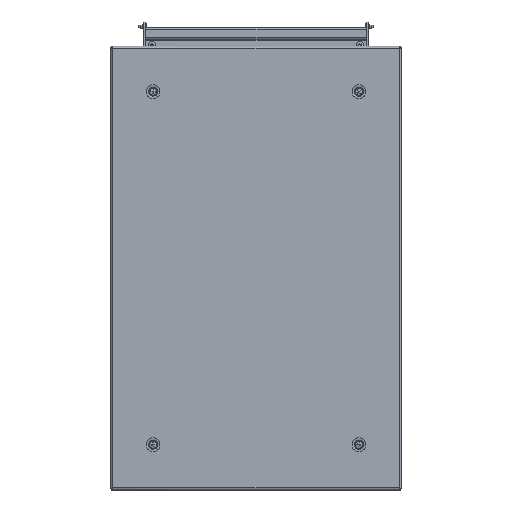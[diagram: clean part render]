
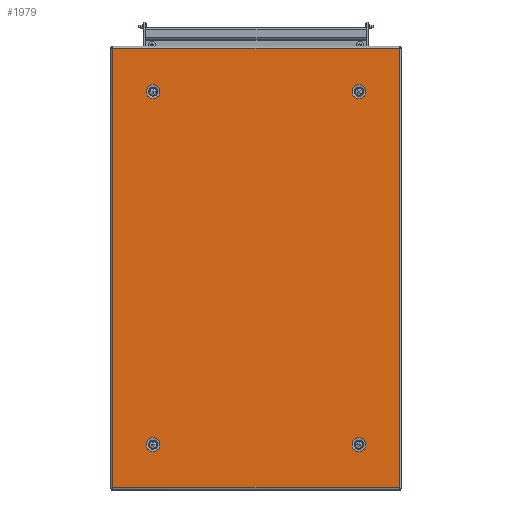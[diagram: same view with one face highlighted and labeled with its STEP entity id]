
A CAD part, left-side view. The second image highlights one B-rep face of the part: STEP entity #1979.
In plain terms, the highlighted planar face has unit normal (-1, 0, 0).
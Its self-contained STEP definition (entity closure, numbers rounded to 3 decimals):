
#1979=ADVANCED_FACE('',(#2788,#2790,#2792,#2794,#2796),#2798,.F.);
#2788=FACE_BOUND('',#2789,.T.);
#2789=EDGE_LOOP('',(#9657,#9658,#9659,#9660));
#2790=FACE_BOUND('',#2791,.T.);
#2791=EDGE_LOOP('',(#9661));
#2792=FACE_BOUND('',#2793,.T.);
#2793=EDGE_LOOP('',(#9662));
#2794=FACE_BOUND('',#2795,.T.);
#2795=EDGE_LOOP('',(#9663));
#2796=FACE_BOUND('',#2797,.T.);
#2797=EDGE_LOOP('',(#9664));
#2798=PLANE('',#2799);
#2799=AXIS2_PLACEMENT_3D('',#2800,#2801,#2802);
#2800=CARTESIAN_POINT('',(0.,0.,0.));
#2801=DIRECTION('',(1.,0.,0.));
#2802=DIRECTION('',(0.,1.,0.));
#9657=ORIENTED_EDGE('',*,*,#11681,.T.);
#9658=ORIENTED_EDGE('',*,*,#11682,.T.);
#9659=ORIENTED_EDGE('',*,*,#11683,.T.);
#9660=ORIENTED_EDGE('',*,*,#11684,.T.);
#9661=ORIENTED_EDGE('',*,*,#11685,.T.);
#9662=ORIENTED_EDGE('',*,*,#11686,.T.);
#9663=ORIENTED_EDGE('',*,*,#11687,.T.);
#9664=ORIENTED_EDGE('',*,*,#11688,.T.);
#11681=EDGE_CURVE('',#12755,#12756,#12757,.T.);
#11682=EDGE_CURVE('',#12756,#12758,#12759,.T.);
#11683=EDGE_CURVE('',#12758,#12760,#12761,.T.);
#11684=EDGE_CURVE('',#12760,#12755,#12762,.T.);
#11685=EDGE_CURVE('',#12763,#12763,#12764,.T.);
#11686=EDGE_CURVE('',#12765,#12765,#12766,.T.);
#11687=EDGE_CURVE('',#12767,#12767,#12768,.T.);
#11688=EDGE_CURVE('',#12769,#12769,#12770,.T.);
#12755=VERTEX_POINT('',#14618);
#12756=VERTEX_POINT('',#14619);
#12757=LINE('',#14620,#14621);
#12758=VERTEX_POINT('',#14623);
#12759=LINE('',#14624,#14625);
#12760=VERTEX_POINT('',#14627);
#12761=LINE('',#14628,#14629);
#12762=LINE('',#14631,#14632);
#12763=VERTEX_POINT('',#14634);
#12764=CIRCLE('',#14635,9.25);
#12765=VERTEX_POINT('',#14639);
#12766=CIRCLE('',#14640,9.25);
#12767=VERTEX_POINT('',#14644);
#12768=CIRCLE('',#14645,9.25);
#12769=VERTEX_POINT('',#14649);
#12770=CIRCLE('',#14650,9.25);
#14618=CARTESIAN_POINT('',(0.,192.7,295.7));
#14619=CARTESIAN_POINT('',(0.,192.7,-295.7));
#14620=CARTESIAN_POINT('',(0.,192.7,295.7));
#14621=VECTOR('',#14622,1.);
#14622=DIRECTION('',(0.,0.,-1.));
#14623=CARTESIAN_POINT('',(0.,-192.7,-295.7));
#14624=CARTESIAN_POINT('',(0.,192.7,-295.7));
#14625=VECTOR('',#14626,1.);
#14626=DIRECTION('',(0.,-1.,0.));
#14627=CARTESIAN_POINT('',(0.,-192.7,295.7));
#14628=CARTESIAN_POINT('',(0.,-192.7,-295.7));
#14629=VECTOR('',#14630,1.);
#14630=DIRECTION('',(0.,0.,1.));
#14631=CARTESIAN_POINT('',(0.,-192.7,295.7));
#14632=VECTOR('',#14633,1.);
#14633=DIRECTION('',(0.,1.,0.));
#14634=CARTESIAN_POINT('',(0.,147.75,237.5));
#14635=AXIS2_PLACEMENT_3D('',#14636,#14637,#14638);
#14636=CARTESIAN_POINT('',(0.,138.5,237.5));
#14637=DIRECTION('',(1.,0.,0.));
#14638=DIRECTION('',(0.,1.,0.));
#14639=CARTESIAN_POINT('',(0.,-129.25,237.5));
#14640=AXIS2_PLACEMENT_3D('',#14641,#14642,#14643);
#14641=CARTESIAN_POINT('',(0.,-138.5,237.5));
#14642=DIRECTION('',(1.,0.,0.));
#14643=DIRECTION('',(0.,1.,0.));
#14644=CARTESIAN_POINT('',(0.,-129.25,-237.5));
#14645=AXIS2_PLACEMENT_3D('',#14646,#14647,#14648);
#14646=CARTESIAN_POINT('',(0.,-138.5,-237.5));
#14647=DIRECTION('',(1.,0.,0.));
#14648=DIRECTION('',(0.,1.,0.));
#14649=CARTESIAN_POINT('',(0.,147.75,-237.5));
#14650=AXIS2_PLACEMENT_3D('',#14651,#14652,#14653);
#14651=CARTESIAN_POINT('',(0.,138.5,-237.5));
#14652=DIRECTION('',(1.,0.,0.));
#14653=DIRECTION('',(0.,1.,0.));
